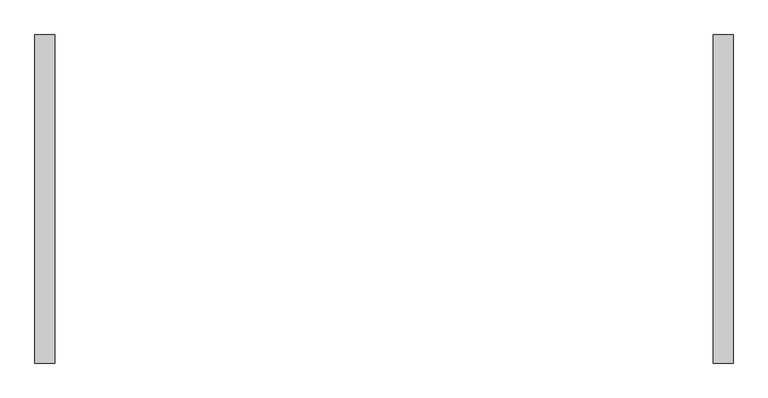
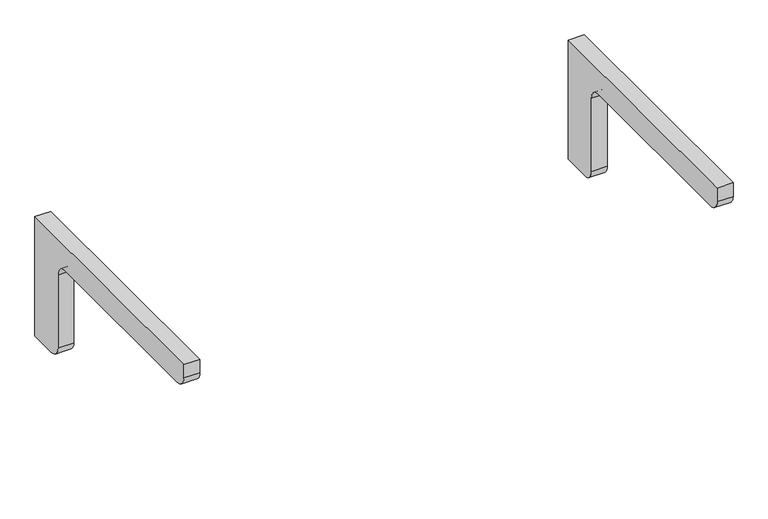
"""IFC4 building model written with IfcOpenShell, lengths in millimetres: furniture geometry."""

import ifcopenshell
import ifcopenshell.guid

model = None  # the IFC model being written
_history = None  # IfcOwnerHistory: only IFC2X3 demands one
_inside = {}  # id of a spatial element -> (the spatial element, [elements in it])
_under = {}  # id of a project, library or spatial element -> (it, [spatial elements below it])
_declared = {}  # id of a project -> (the project, [libraries it declares])
_typed = {}  # id of a type object -> (the type object, [elements of that type])
_made_of = {}  # id of a material, layer set ... -> (it, [elements and type objects made of it])


def new_model(schema):
    """Start an empty IFC model of exactly this schema.

    Asked for "IFC4X3", IfcOpenShell would pick the latest addendum, in which some entities
    have other attributes; the version numbers below select the first issue.
    IFC2X3 requires an IfcOwnerHistory on every rooted entity: one is made here for all.
    """
    global model, _history
    if schema == "IFC4X3":
        model = ifcopenshell.file(schema_version=(4, 3, 0, 0))
    else:
        model = ifcopenshell.file(schema=schema)
    _inside.clear()
    _under.clear()
    _declared.clear()
    _typed.clear()
    _made_of.clear()
    _history = None
    if model.schema == "IFC2X3":
        org = make("IfcOrganization", Name="unknown")
        user = make(
            "IfcPersonAndOrganization",
            ThePerson=make("IfcPerson", FamilyName="unknown"),
            TheOrganization=org,
        )
        app = make(
            "IfcApplication",
            ApplicationDeveloper=org,
            Version="unknown",
            ApplicationFullName="unknown",
            ApplicationIdentifier="unknown",
        )
        _history = make(
            "IfcOwnerHistory",
            OwningUser=user,
            OwningApplication=app,
            ChangeAction="ADDED",
            CreationDate=0,
        )
    return model


def make(cls, **values):
    """One entity of the class cls with the attributes given. An attribute that is None is left unset."""
    return model.create_entity(
        cls, **{name: value for name, value in values.items() if value is not None}
    )


def rooted(cls, **values):
    """An entity with a GlobalId (a new one), such as an element, a storey or a relation."""
    return make(cls, GlobalId=ifcopenshell.guid.new(), OwnerHistory=_history, **values)


def si_unit(unit_type, name, prefix=None):
    """IfcSIUnit, for example si_unit("LENGTHUNIT", "METRE", prefix="MILLI")."""
    return make("IfcSIUnit", UnitType=unit_type, Prefix=prefix, Name=name)


def assignment(units):
    """IfcUnitAssignment: the units of a project."""
    return None if units is None else make("IfcUnitAssignment", Units=units)


def point(xyz):
    """IfcCartesianPoint."""
    return None if xyz is None else make("IfcCartesianPoint", Coordinates=xyz)


def direction(xyz):
    """IfcDirection."""
    return None if xyz is None else make("IfcDirection", DirectionRatios=xyz)


def frame(location, z_axis=None, x_axis=None):
    """IfcAxis2Placement3D, a coordinate frame: its origin and axes. An axis left out is left unset."""
    return make(
        "IfcAxis2Placement3D",
        Location=point(location),
        Axis=direction(z_axis),
        RefDirection=direction(x_axis),
    )


def frame_2d(location, x_axis=None):
    """IfcAxis2Placement2D, a coordinate frame in the plane: its origin and x axis."""
    return make(
        "IfcAxis2Placement2D", Location=point(location), RefDirection=direction(x_axis)
    )


def origin():
    """The frame at (0, 0, 0) with its axes left unset."""
    return frame((0.0, 0.0, 0.0))


def place(relative_to, where):
    """IfcLocalPlacement: puts the frame where relative to a parent placement (None: the world)."""
    return make(
        "IfcLocalPlacement", PlacementRelTo=relative_to, RelativePlacement=where
    )


def context(
    kind, dimensions, precision=None, world=None, true_north=None, identifier=None
):
    """IfcGeometricRepresentationContext, for example the 3D "Model" context."""
    return make(
        "IfcGeometricRepresentationContext",
        ContextIdentifier=identifier,
        ContextType=kind,
        CoordinateSpaceDimension=dimensions,
        Precision=precision,
        WorldCoordinateSystem=world,
        TrueNorth=true_north,
    )


def project(units=None, contexts=None):
    """IfcProject with its units and contexts."""
    return rooted(
        "IfcProject",
        Name="project",
        RepresentationContexts=contexts,
        UnitsInContext=assignment(units),
    )


def spatial(cls, under=None, at=None, **own):
    """A site, building, storey or space (cls), placed at a placement, below another one or the project."""
    s = rooted(cls, ObjectPlacement=at, **own)
    if under is not None:
        _under.setdefault(under.id(), (under, []))[1].append(s)
    return s


def polyline(points):
    """IfcPolyline through the points."""
    return make("IfcPolyline", Points=[point(p) for p in points])


def circle_curve(where, radius):
    """IfcCircle in the frame where."""
    return make("IfcCircle", Position=where, Radius=radius)


def trimmed(basis, trim1, trim2, sense, master):
    """IfcTrimmedCurve: the piece of a basis curve between two trims."""
    return make(
        "IfcTrimmedCurve",
        BasisCurve=basis,
        Trim1=trim1,
        Trim2=trim2,
        SenseAgreement=sense,
        MasterRepresentation=master,
    )


def segment(curve, same_sense, transition):
    """IfcCompositeCurveSegment."""
    return make(
        "IfcCompositeCurveSegment",
        Transition=transition,
        SameSense=same_sense,
        ParentCurve=curve,
    )


def composite_curve(segments, self_intersect=None):
    """IfcCompositeCurve: segments joined end to end."""
    return make("IfcCompositeCurve", Segments=segments, SelfIntersect=self_intersect)


def outline(outer, holes=None, kind="AREA"):
    """IfcArbitraryClosedProfileDef: a profile drawn as a closed curve; with holes, ...WithVoids."""
    if holes is None:
        return make("IfcArbitraryClosedProfileDef", ProfileType=kind, OuterCurve=outer)
    return make(
        "IfcArbitraryProfileDefWithVoids",
        ProfileType=kind,
        OuterCurve=outer,
        InnerCurves=holes,
    )


def extrude(swept, where, along, depth):
    """IfcExtrudedAreaSolid: the profile swept, set in the frame where, extruded along a direction by depth."""
    return make(
        "IfcExtrudedAreaSolid",
        SweptArea=swept,
        Position=where,
        ExtrudedDirection=direction(along),
        Depth=depth,
    )


def shape(context_of_items, identifier, shape_type, items):
    """IfcShapeRepresentation: the items that make up one representation, for example the "Body"."""
    return make(
        "IfcShapeRepresentation",
        ContextOfItems=context_of_items,
        RepresentationIdentifier=identifier,
        RepresentationType=shape_type,
        Items=items,
    )


def source(mapping_origin, context_of_items, identifier, shape_type, items):
    """IfcRepresentationMap: a shape defined once, which mapped items show again and again."""
    return make(
        "IfcRepresentationMap",
        MappingOrigin=mapping_origin,
        MappedRepresentation=shape(context_of_items, identifier, shape_type, items),
    )


def transform(
    local_origin,
    x_axis=None,
    y_axis=None,
    z_axis=None,
    scale=None,
    scale2=None,
    scale3=None,
    uniform=True,
):
    """IfcCartesianTransformationOperator3D, or its non-uniform kind. x_axis, y_axis, z_axis: its Axis1, 2, 3."""
    if uniform:
        return make(
            "IfcCartesianTransformationOperator3D",
            Axis1=direction(x_axis),
            Axis2=direction(y_axis),
            LocalOrigin=point(local_origin),
            Scale=scale,
            Axis3=direction(z_axis),
        )
    return make(
        "IfcCartesianTransformationOperator3DnonUniform",
        Axis1=direction(x_axis),
        Axis2=direction(y_axis),
        LocalOrigin=point(local_origin),
        Scale=scale,
        Axis3=direction(z_axis),
        Scale2=scale2,
        Scale3=scale3,
    )


def mapped(mapping_source, mapping_target):
    """IfcMappedItem: shows the shape of a source again, moved by a transform."""
    return make(
        "IfcMappedItem", MappingSource=mapping_source, MappingTarget=mapping_target
    )


def made_of(thing, what):
    """Note that an element or type object is made of a material, layer set ...; save() writes the relation."""
    if what is not None:
        _made_of.setdefault(what.id(), (what, []))[1].append(thing)
    return thing


def element(
    cls,
    number,
    at=None,
    inside=None,
    cuts=None,
    type_object=None,
    material=None,
    context=None,
    identifier="Body",
    shape_type=None,
    held_by="IfcProductDefinitionShape",
    body=None,
    shapes=None,
    **own,
):
    """One element of the class cls, such as IfcWall. Its Tag is "e" and its number.

    at: its placement. inside: the storey or other place that contains it. cuts: it is an
    opening in that element (IfcRelVoidsElement). A single representation is given by context,
    identifier, shape_type and body (its items); several are given by shapes. held_by: the class
    of the entity that holds the representations. save() writes the other relations.
    """
    e = rooted(cls, Tag="e%d" % number, ObjectPlacement=at, **own)
    if body is not None:
        shapes = [shape(context, identifier, shape_type, body)]
    if shapes is not None:
        e.Representation = make(held_by, Representations=shapes)
    if inside is not None:
        _inside.setdefault(inside.id(), (inside, []))[1].append(e)
    if cuts is not None:
        rooted(
            "IfcRelVoidsElement", RelatingBuildingElement=cuts, RelatedOpeningElement=e
        )
    if type_object is not None:
        _typed.setdefault(type_object.id(), (type_object, []))[1].append(e)
    return made_of(e, material)


def aggregate(whole, parts):
    """IfcRelAggregates: a whole, such as a stair, and the parts it consists of."""
    return rooted("IfcRelAggregates", RelatingObject=whole, RelatedObjects=parts)


def save(model, path):
    """Write the relations noted so far, then the file.

    IfcRelAggregates (storeys below a building ...), IfcRelContainedInSpatialStructure (elements
    in a storey), IfcRelDefinesByType, IfcRelAssociatesMaterial and IfcRelDeclares: one each for
    every whole, place, type object, material and project.
    """
    for whole, parts in _under.values():
        aggregate(whole, parts)
    for where, things in _inside.values():
        rooted(
            "IfcRelContainedInSpatialStructure",
            RelatedElements=things,
            RelatingStructure=where,
        )
    for kind, things in _typed.values():
        rooted("IfcRelDefinesByType", RelatedObjects=things, RelatingType=kind)
    for what, things in _made_of.values():
        rooted("IfcRelAssociatesMaterial", RelatedObjects=things, RelatingMaterial=what)
    for by, libraries in _declared.values():
        rooted("IfcRelDeclares", RelatingContext=by, RelatedDefinitions=libraries)
    model.write(path)


def furniture_84a85ef8(model_context):
    return source(origin(), model_context, "Body", "SweptSolid", [
        extrude(outline(composite_curve([segment(polyline([(177.8, 882.65), (177.8, 603.25), (114.3, 603.25)]), True, "CONTINUOUS"), segment(trimmed(circle_curve(frame_2d((114.3, 628.65)), 25.4), [point((114.3, 603.25))], [point((88.9, 628.65))], False, "CARTESIAN"), True, "CONTINUOUS"), segment(polyline([(88.9, 628.65), (88.9, 800.1)]), True, "CONTINUOUS"), segment(trimmed(circle_curve(frame_2d((63.5, 800.1)), 25.4), [point((88.9, 800.1))], [point((63.5, 825.5))], True, "CARTESIAN"), True, "CONTINUOUS"), segment(polyline([(63.5, 825.5), (-368.3, 825.5)]), True, "CONTINUOUS"), segment(trimmed(circle_curve(frame_2d((-368.3, 850.9)), 25.4), [point((-368.3, 825.5))], [point((-393.7, 850.9))], False, "CARTESIAN"), True, "CONTINUOUS"), segment(polyline([(-393.7, 850.9), (-393.7, 882.65), (177.8, 882.65)]), True, "CONTINUOUS")], self_intersect=False)), frame((573.0875, 0.0, 0.0), z_axis=(1.0, 0.0, 0.0), x_axis=(0.0, 1.0, 0.0)), (0.0, 0.0, 1.0), 34.925),
        extrude(outline(composite_curve([segment(polyline([(-393.7, 850.9), (-393.7, 882.65), (177.8, 882.65), (177.8, 603.25), (114.3, 603.25)]), True, "CONTINUOUS"), segment(trimmed(circle_curve(frame_2d((114.3, 628.65)), 25.4), [point((114.3, 603.25))], [point((88.9, 628.65))], False, "CARTESIAN"), True, "CONTINUOUS"), segment(polyline([(88.9, 628.65), (88.9, 800.1)]), True, "CONTINUOUS"), segment(trimmed(circle_curve(frame_2d((63.5, 800.1)), 25.4), [point((88.9, 800.1))], [point((63.5, 825.5))], True, "CARTESIAN"), True, "CONTINUOUS"), segment(polyline([(63.5, 825.5), (-368.3, 825.5)]), True, "CONTINUOUS"), segment(trimmed(circle_curve(frame_2d((-368.3, 850.9)), 25.4), [point((-368.3, 825.5))], [point((-393.7, 850.9))], False, "CARTESIAN"), True, "CONTINUOUS")], self_intersect=False)), frame((-608.0125, 0.0, 0.0), z_axis=(1.0, 0.0, 0.0), x_axis=(0.0, 1.0, 0.0)), (0.0, 0.0, 1.0), 34.925),
    ])


if __name__ == "__main__":
    model = new_model("IFC4")
    model_context = context("Model", 3, world=origin())
    ifc_project = project(units=[si_unit("LENGTHUNIT", "METRE", prefix="MILLI")], contexts=[model_context])
    site = spatial("IfcSite", under=ifc_project)
    building = spatial("IfcBuilding", under=site)
    placement = place(None, origin())
    furniture_shape = furniture_84a85ef8(model_context)
    element("IfcFurniture", 1, ObjectType="HermanMiller_CoStruc_C2140H_WorkSurfaceSupport_Heavy Duty : 11\"H x 24\"D x 48\"W", at=placement, inside=building, context=model_context, shape_type="MappedRepresentation", body=[
        mapped(furniture_shape, transform((0.0, 0.0, 0.0), x_axis=(1.0, 0.0, 0.0), y_axis=(0.0, 1.0, 0.0), z_axis=(0.0, 0.0, 1.0))),
    ])
    save(model, "model.ifc")
